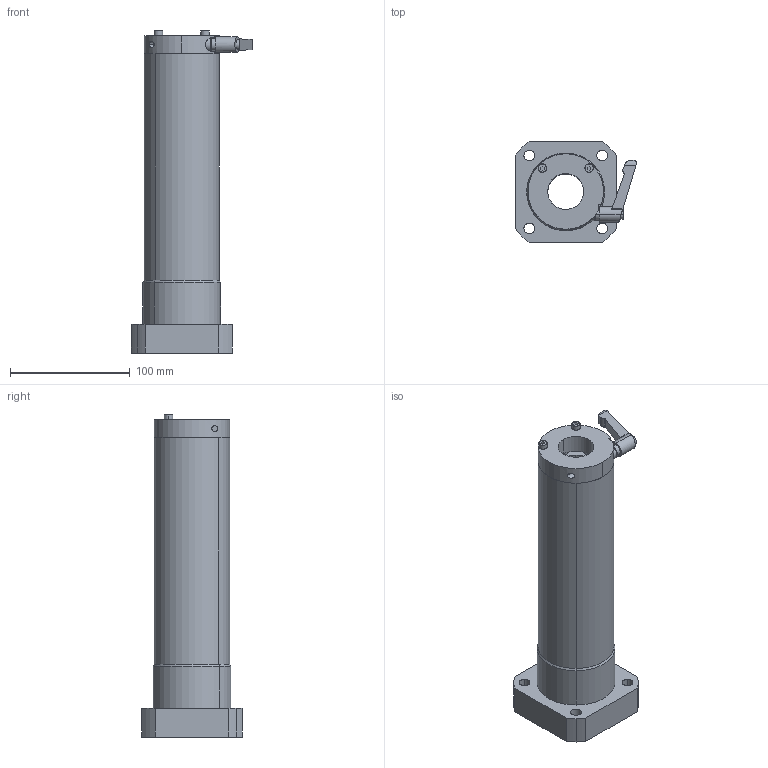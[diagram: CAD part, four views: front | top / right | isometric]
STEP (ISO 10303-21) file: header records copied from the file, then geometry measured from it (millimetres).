
FILE_DESCRIPTION (( 'STEP AP214' ), '1' );
FILE_NAME ('LFWL30AMF-CS.STEP', '2023-06-27T04:26:40', ( '' ), ( '' ), 'SwSTEP 2.0', 'SolidWorks 2019', '' );
FILE_SCHEMA (( 'AUTOMOTIVE_DESIGN' ));
Length unit declared in the file: millimetre
Products named in the file (3): LFWL30AMF-CS; LFWL30AMF; “ÁSCK3015SS-S4.5
Assembly tree (2 placements, depth 2):
  LFWL30AMF-CS
    LFWL30AMF
    “ÁSCK3015SS-S4.5
Bounding box: 101.1 x 84 x 269 mm (x, y, z)
Volume: 726250.4 mm3; surface area: 113434.5 mm2
Topology: 3 solids, 9 shells, 213 faces, 541 edges, 342 vertices
Faces by surface type: cylinder 86, plane 63, bspline 43, cone 13, torus 8
Entity records: 9674 total; most frequent: CARTESIAN_POINT 2006, DIRECTION 1140, ORIENTED_EDGE 1082, EDGE_CURVE 541, AXIS2_PLACEMENT_3D 470, VERTEX_POINT 342, CIRCLE 295, EDGE_LOOP 257
